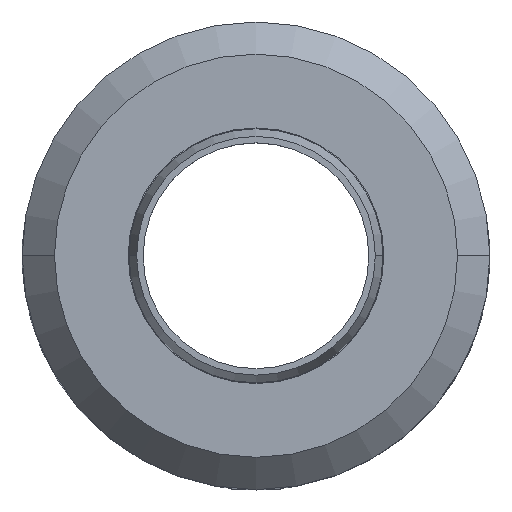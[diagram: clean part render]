
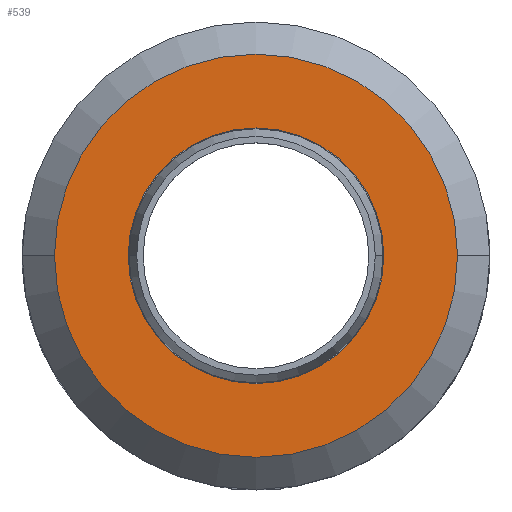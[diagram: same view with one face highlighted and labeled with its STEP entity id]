
A CAD part, top view. The second image highlights one B-rep face of the part: STEP entity #539.
In plain terms, the highlighted planar face has unit normal (0, 0, 1).
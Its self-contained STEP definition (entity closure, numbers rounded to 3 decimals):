
#260 = VERTEX_POINT ( 'NONE', #1092 ) ;
#263 = VERTEX_POINT ( 'NONE', #1091 ) ;
#264 = EDGE_CURVE ( 'NONE', #263, #260, #1425, .T. ) ;
#302 = VERTEX_POINT ( 'NONE', #1411 ) ;
#304 = EDGE_CURVE ( 'NONE', #302, #305, #1410, .T. ) ;
#305 = VERTEX_POINT ( 'NONE', #1405 ) ;
#353 = ORIENTED_EDGE ( 'NONE', *, *, #264, .T. ) ;
#384 = EDGE_CURVE ( 'NONE', #305, #302, #1641, .T. ) ;
#539 = ADVANCED_FACE ( 'NONE', ( #2052, #2051 ), #2228, .F. ) ;
#540 = EDGE_LOOP ( 'NONE', ( #541, #694 ) ) ;
#541 = ORIENTED_EDGE ( 'NONE', *, *, #384, .F. ) ;
#633 = EDGE_LOOP ( 'NONE', ( #651, #353 ) ) ;
#651 = ORIENTED_EDGE ( 'NONE', *, *, #715, .T. ) ;
#694 = ORIENTED_EDGE ( 'NONE', *, *, #304, .F. ) ;
#715 = EDGE_CURVE ( 'NONE', #260, #263, #2276, .T. ) ;
#1091 = CARTESIAN_POINT ( 'NONE',  ( 25., 0., 0. ) ) ;
#1092 = CARTESIAN_POINT ( 'NONE',  ( -25., 0., 0. ) ) ;
#1399 = DIRECTION ( 'NONE',  ( 0., 0., 1. ) ) ;
#1402 = DIRECTION ( 'NONE',  ( 1., 0., 0. ) ) ;
#1405 = CARTESIAN_POINT ( 'NONE',  ( 15.85, 0., 0. ) ) ;
#1406 = DIRECTION ( 'NONE',  ( 1., 0., 0. ) ) ;
#1407 = DIRECTION ( 'NONE',  ( 0., 0., 1. ) ) ;
#1408 = CARTESIAN_POINT ( 'NONE',  ( 0., 0., 0. ) ) ;
#1409 = AXIS2_PLACEMENT_3D ( 'NONE', #1408, #1407, #1406 ) ;
#1410 = CIRCLE ( 'NONE', #1409, 15.85 ) ;
#1411 = CARTESIAN_POINT ( 'NONE',  ( -15.85, 0., 0. ) ) ;
#1425 = CIRCLE ( 'NONE', #1501, 25. ) ;
#1464 = CARTESIAN_POINT ( 'NONE',  ( 0., 0., 0. ) ) ;
#1501 = AXIS2_PLACEMENT_3D ( 'NONE', #1464, #1399, #1402 ) ;
#1637 = DIRECTION ( 'NONE',  ( 1., 0., 0. ) ) ;
#1638 = DIRECTION ( 'NONE',  ( 0., 0., 1. ) ) ;
#1639 = CARTESIAN_POINT ( 'NONE',  ( 0., 0., 0. ) ) ;
#1640 = AXIS2_PLACEMENT_3D ( 'NONE', #1639, #1638, #1637 ) ;
#1641 = CIRCLE ( 'NONE', #1640, 15.85 ) ;
#2051 = FACE_OUTER_BOUND ( 'NONE', #633, .T. ) ;
#2052 = FACE_BOUND ( 'NONE', #540, .T. ) ;
#2221 = DIRECTION ( 'NONE',  ( -1., 0., 0. ) ) ;
#2222 = DIRECTION ( 'NONE',  ( 0., 0., -1. ) ) ;
#2223 = CARTESIAN_POINT ( 'NONE',  ( 0., 15.85, 0. ) ) ;
#2227 = AXIS2_PLACEMENT_3D ( 'NONE', #2223, #2222, #2221 ) ;
#2228 = PLANE ( 'NONE',  #2227 ) ;
#2272 = DIRECTION ( 'NONE',  ( 1., 0., 0. ) ) ;
#2273 = DIRECTION ( 'NONE',  ( 0., 0., 1. ) ) ;
#2274 = CARTESIAN_POINT ( 'NONE',  ( 0., 0., 0. ) ) ;
#2275 = AXIS2_PLACEMENT_3D ( 'NONE', #2274, #2273, #2272 ) ;
#2276 = CIRCLE ( 'NONE', #2275, 25. ) ;
